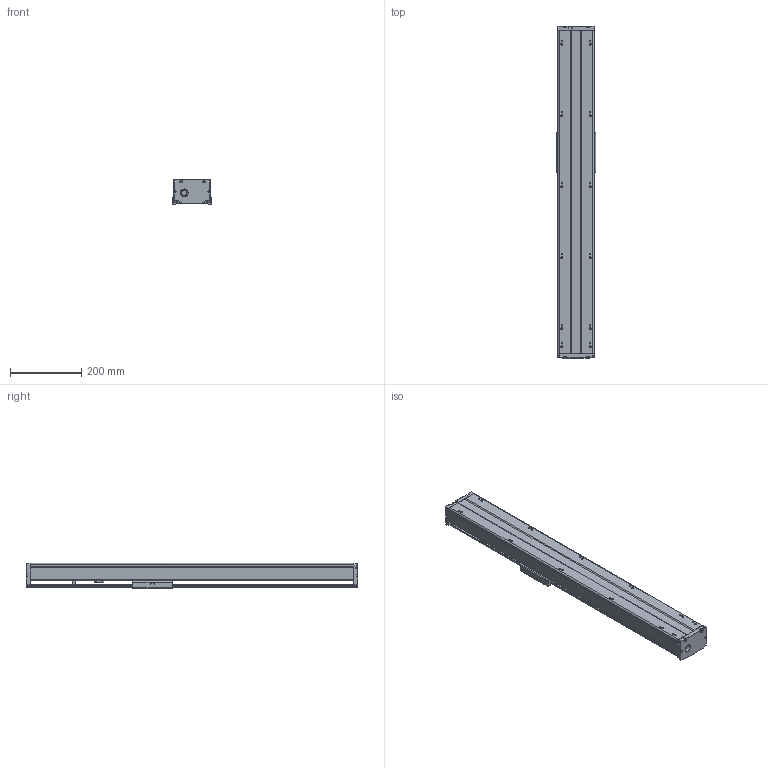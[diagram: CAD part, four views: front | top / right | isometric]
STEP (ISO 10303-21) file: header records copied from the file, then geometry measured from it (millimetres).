
FILE_DESCRIPTION(/* description */ (''),/* implementation_level */ '2;1');
FILE_NAME(/* name */ 'TKA100-550A1FI_asm1.stp',/* time_stamp */ '2017-02-21T08:36:08+08:00',/* author */ (''),/* organization */ (''),/* preprocessor_version */ 'ST-DEVELOPER v15',/* originating_system */ 'SIEMENS PLM Software NX 8.5',/* authorisation */ '');
FILE_SCHEMA (('AUTOMOTIVE_DESIGN { 1 0 10303 214 3 1 1 1 }'));
Length unit declared in the file: millimetre
Products named in the file (3): 200-02; 200-01; TKA100-550A1FI_asm1_stp
Assembly tree (2 placements, depth 2):
  TKA100-550A1FI_asm1_stp
    200-01
    200-02
Bounding box: 110 x 934 x 71 mm (x, y, z)
Volume: 2016946.3 mm3; surface area: 652211.2 mm2
Topology: 2 solids, 9 shells, 859 faces, 2220 edges, 1407 vertices
Faces by surface type: plane 359, cylinder 291, cone 149, torus 34, bspline 26
Full cylindrical faces by diameter (mm): 2.5 x4, 2.6 x8, 3.3 x8, 3.4 x4, 3.8 x4, 4.2 x21, 4.3 x4, 4.5 x4, 5 x1, 5.5 x24, 6.6 x4, 8 x5, 9 x4, 10 x12, 11 x4, 12 x7, 15.3 x1, 16 x1, 22 x1, 24 x1, 28 x5, 30 x1
Entity records: 30542 total; most frequent: CARTESIAN_POINT 10564, DIRECTION 4150, ORIENTED_EDGE 3874, EDGE_CURVE 1937, AXIS2_PLACEMENT_3D 1604, VERTEX_POINT 1332, EDGE_LOOP 1153, LINE 942
